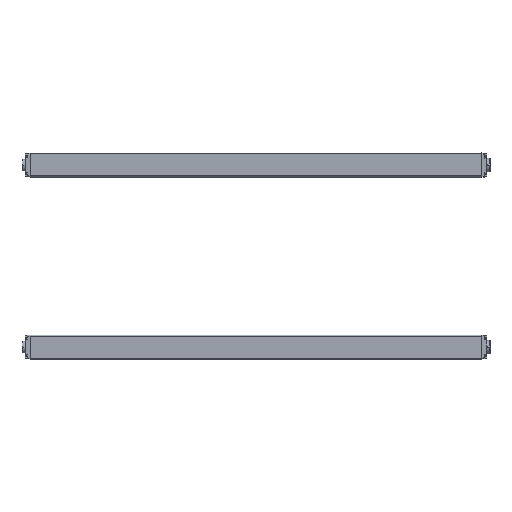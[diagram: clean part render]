
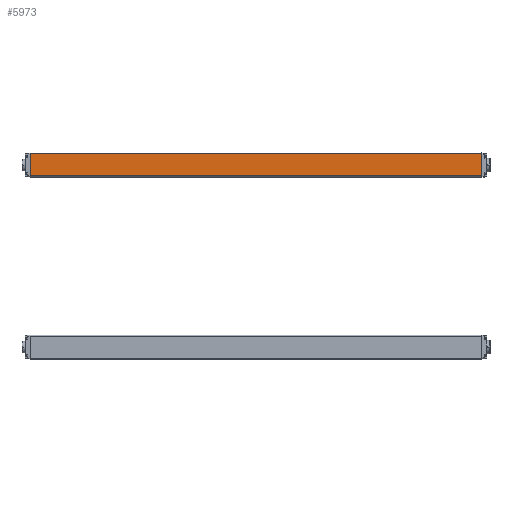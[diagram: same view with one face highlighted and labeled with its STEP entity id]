
A CAD part, left-side view. The second image highlights one B-rep face of the part: STEP entity #5973.
In plain terms, the highlighted planar face has unit normal (-1, 0, -0.009) as drawn and (-1, 0, 0) by its records, which use the part's own axes.
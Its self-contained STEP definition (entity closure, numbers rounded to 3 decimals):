
#182 = VERTEX_POINT ( 'NONE', #8974 ) ;
#274 = EDGE_LOOP ( 'NONE', ( #12539, #6143, #10743, #15461 ) ) ;
#816 = DIRECTION ( 'NONE',  ( 0., 0., 1. ) ) ;
#1634 = VECTOR ( 'NONE', #15238, 1000. ) ;
#3810 = EDGE_CURVE ( 'NONE', #6402, #11706, #11429, .T. ) ;
#4128 = LINE ( 'NONE', #9674, #1634 ) ;
#4164 = DIRECTION ( 'NONE',  ( 1., 0., 0. ) ) ;
#4518 = DIRECTION ( 'NONE',  ( 0., -1., 0. ) ) ;
#5485 = LINE ( 'NONE', #11038, #17691 ) ;
#5521 = FACE_OUTER_BOUND ( 'NONE', #274, .T. ) ;
#5739 = CARTESIAN_POINT ( 'NONE',  ( -15., 0., -16.693 ) ) ;
#5838 = VERTEX_POINT ( 'NONE', #9372 ) ;
#5973 = ADVANCED_FACE ( 'NONE', ( #5521 ), #11080, .F. ) ;
#6143 = ORIENTED_EDGE ( 'NONE', *, *, #3810, .T. ) ;
#6402 = VERTEX_POINT ( 'NONE', #13069 ) ;
#7725 = LINE ( 'NONE', #13286, #8836 ) ;
#7922 = AXIS2_PLACEMENT_3D ( 'NONE', #16638, #4164, #9709 ) ;
#8836 = VECTOR ( 'NONE', #816, 1000. ) ;
#8974 = CARTESIAN_POINT ( 'NONE',  ( -15., 570., 10.9 ) ) ;
#9232 = VECTOR ( 'NONE', #4518, 1000. ) ;
#9372 = CARTESIAN_POINT ( 'NONE',  ( -15., 0., 10.9 ) ) ;
#9674 = CARTESIAN_POINT ( 'NONE',  ( -15., 570., 10.9 ) ) ;
#9709 = DIRECTION ( 'NONE',  ( 0., 0., -1. ) ) ;
#9799 = EDGE_CURVE ( 'NONE', #6402, #182, #7725, .T. ) ;
#10743 = ORIENTED_EDGE ( 'NONE', *, *, #11615, .T. ) ;
#11038 = CARTESIAN_POINT ( 'NONE',  ( -15., 0., -16.9 ) ) ;
#11080 = PLANE ( 'NONE',  #7922 ) ;
#11429 = LINE ( 'NONE', #16991, #9232 ) ;
#11615 = EDGE_CURVE ( 'NONE', #11706, #5838, #5485, .T. ) ;
#11706 = VERTEX_POINT ( 'NONE', #5739 ) ;
#12539 = ORIENTED_EDGE ( 'NONE', *, *, #9799, .F. ) ;
#13069 = CARTESIAN_POINT ( 'NONE',  ( -15., 570., -16.693 ) ) ;
#13286 = CARTESIAN_POINT ( 'NONE',  ( -15., 570., -16.9 ) ) ;
#15238 = DIRECTION ( 'NONE',  ( 0., -1., 0. ) ) ;
#15461 = ORIENTED_EDGE ( 'NONE', *, *, #16143, .F. ) ;
#16143 = EDGE_CURVE ( 'NONE', #182, #5838, #4128, .T. ) ;
#16601 = DIRECTION ( 'NONE',  ( 0., 0., 1. ) ) ;
#16638 = CARTESIAN_POINT ( 'NONE',  ( -15., 570., -16.9 ) ) ;
#16991 = CARTESIAN_POINT ( 'NONE',  ( -15., 570., -16.693 ) ) ;
#17691 = VECTOR ( 'NONE', #16601, 1000. ) ;
